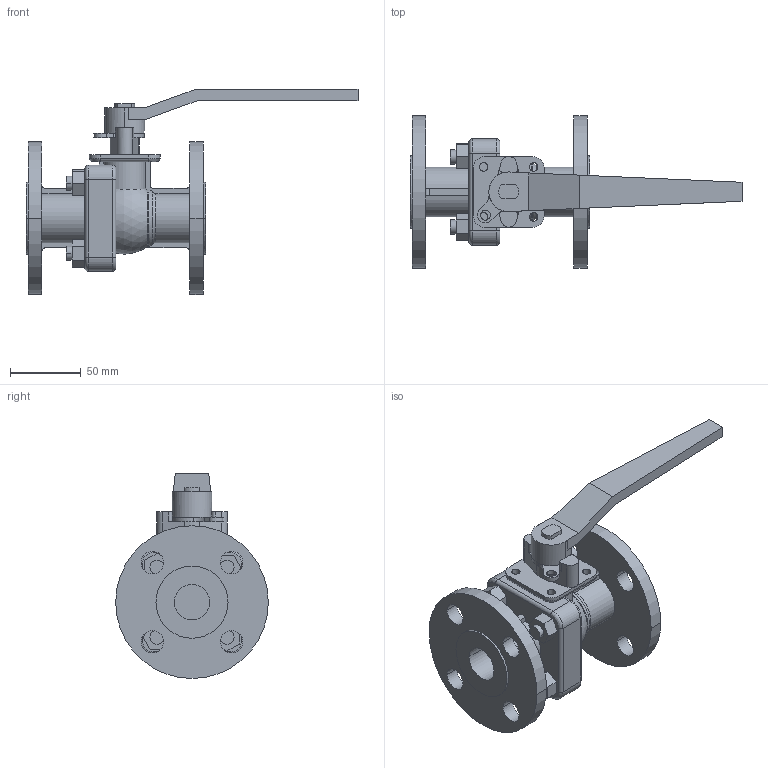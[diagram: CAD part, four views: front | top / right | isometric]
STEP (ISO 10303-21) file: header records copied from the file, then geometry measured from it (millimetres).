
FILE_DESCRIPTION( (''), '2;1');
FILE_NAME ('PC2091.16192.BLV-2SF ANSI150lb 25A_5993.stp','2026-05-28T09:07:22',(''),(''),'spGate 21.9.4 (****-****-****-****)','','');
FILE_SCHEMA (('AUTOMOTIVE_DESIGN'));
Length unit declared in the file: millimetre
Products named in the file (2): Assembly; BLV-2SFA 25A
Assembly tree (1 placements, depth 2):
  Assembly
    BLV-2SFA 25A
Bounding box: 234.8 x 108 x 145 mm (x, y, z)
Volume: 420073.7 mm3; surface area: 96708.8 mm2
Topology: 1 solids, 1 shells, 217 faces, 567 edges, 367 vertices
Faces by surface type: plane 100, cylinder 100, bspline 16, sphere 1
Entity records: 11759 total; most frequent: CARTESIAN_POINT 1771, DIRECTION 1152, ORIENTED_EDGE 1134, COLOUR_RGB 785, PRESENTATION_STYLE_ASSIGNMENT 785, STYLED_ITEM 785, EDGE_CURVE 567, DRAUGHTING_PRE_DEFINED_CURVE_FONT 567
